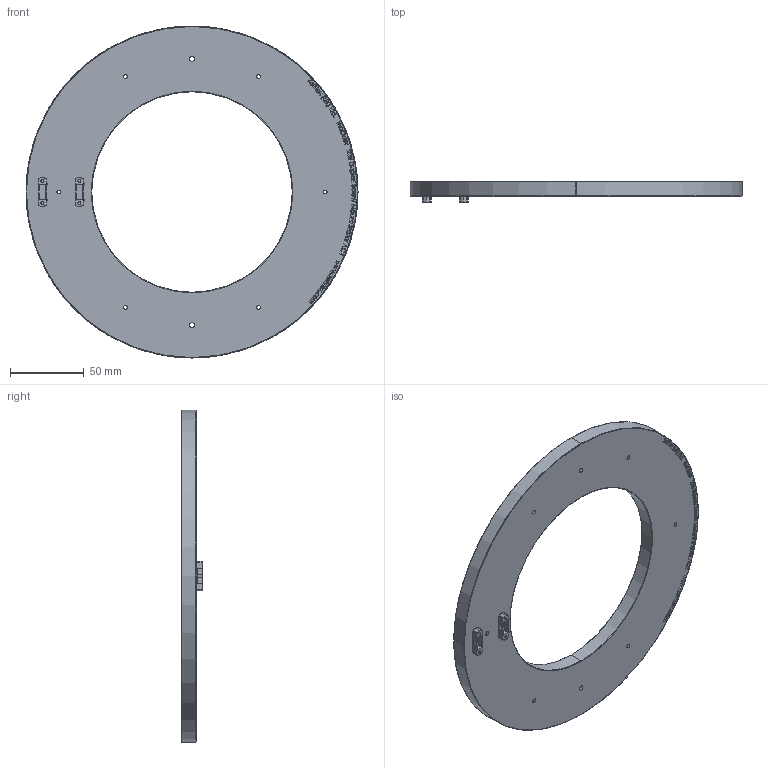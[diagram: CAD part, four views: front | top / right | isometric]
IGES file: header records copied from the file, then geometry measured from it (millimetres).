
Start section: SolidWorks IGES file using analytic representation for surfaces
Global section: file name: C:\Zettlex Data\Mechanical Drawings\1011\225 Duplex Screw Mount Stator AC1 Rev 1-2.IGS; native system: SolidWorks 2015; preprocessor: SolidWorks 2015; author: Nigel; date: 150914.153253; units: millimetre
Bounding box: 225 x 13.8 x 225 mm (x, y, z)
Surface area: 63173.7 mm2 (no closed solid volume)
Topology: 0 solids, 0 shells, 914 faces, 10600 edges, 10600 vertices
Faces by surface type: bspline 861, revolution 53
